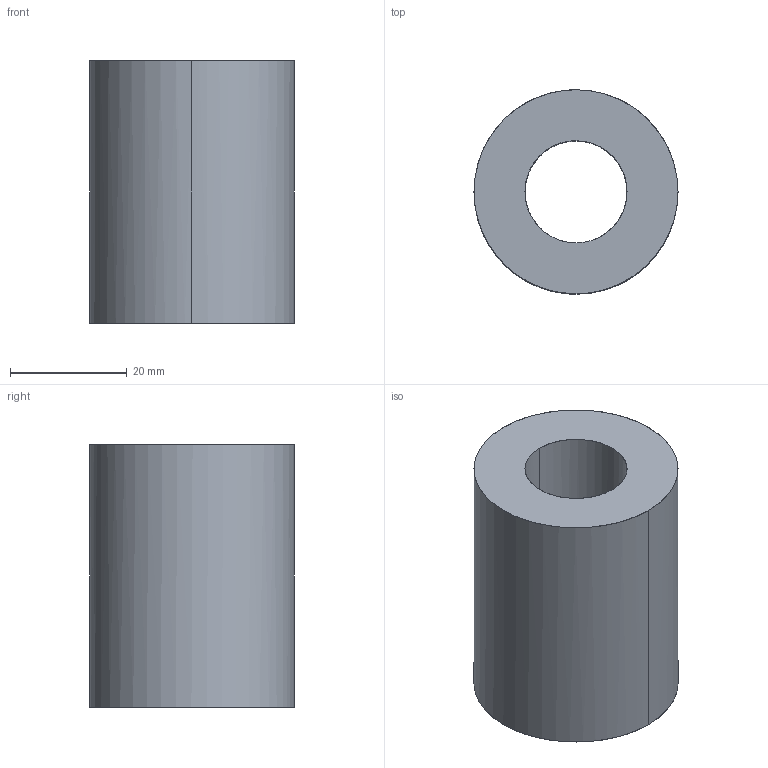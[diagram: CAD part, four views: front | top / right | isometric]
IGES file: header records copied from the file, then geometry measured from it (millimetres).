
Global section: file name: E:\UnigraphicsGraphicData\MISUMI_PRESS-PARTS\IGES\3d_swz35-45_00780_r00.igs; native system: NX V5.0; preprocessor: UGS NX IGES V5.0; author: MISUMI; date: 20110105.163304; units: millimetre
Bounding box: 35 x 35 x 45 mm (x, y, z)
Surface area: 8864 mm2 (no closed solid volume)
Topology: 0 solids, 0 shells, 6 faces, 64 edges, 64 vertices
Faces by surface type: bspline 6
